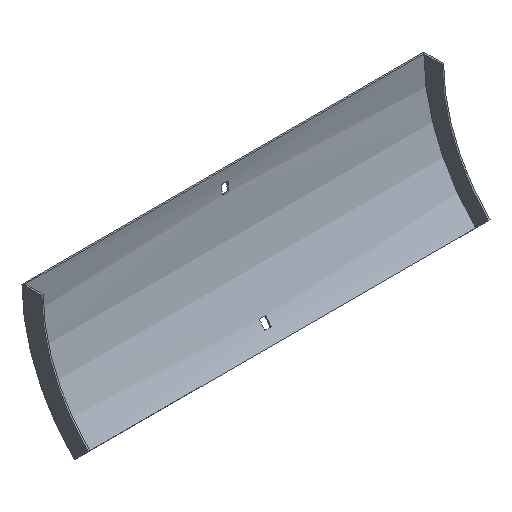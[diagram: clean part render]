
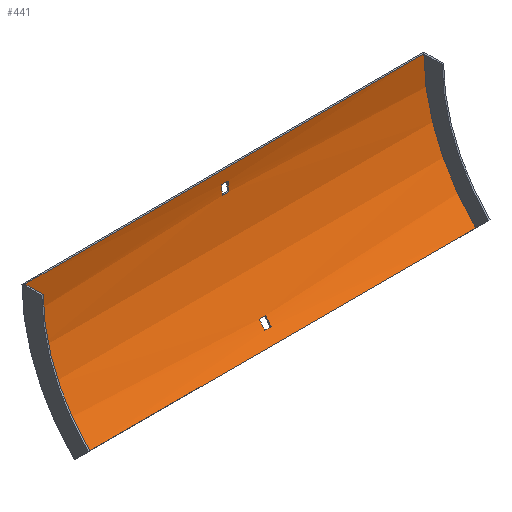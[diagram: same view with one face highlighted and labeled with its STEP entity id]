
A CAD part, isometric view. The second image highlights one B-rep face of the part: STEP entity #441.
In plain terms, the highlighted cylindrical face has radius 179 mm (diameter 358 mm), a partial arc.
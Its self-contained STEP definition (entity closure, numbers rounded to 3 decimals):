
#4 = CARTESIAN_POINT ( 'NONE',  ( 3.25, -45.727, -117.802 ) ) ;
#6 = FACE_OUTER_BOUND ( 'NONE', #267, .T. ) ;
#7 = VERTEX_POINT ( 'NONE', #592 ) ;
#10 = CIRCLE ( 'NONE', #90, 179. ) ;
#19 = DIRECTION ( 'NONE',  ( 0., 0., -1. ) ) ;
#34 = CARTESIAN_POINT ( 'NONE',  ( 3.25, -1.903, -12. ) ) ;
#39 = CARTESIAN_POINT ( 'NONE',  ( 3.25, -39.953, -110.849 ) ) ;
#40 = CARTESIAN_POINT ( 'NONE',  ( -3.25, -2.736, -21. ) ) ;
#42 = CIRCLE ( 'NONE', #138, 179. ) ;
#46 = VERTEX_POINT ( 'NONE', #315 ) ;
#50 = CARTESIAN_POINT ( 'NONE',  ( 3.25, -180.5, 0. ) ) ;
#52 = CIRCLE ( 'NONE', #427, 179. ) ;
#59 = DIRECTION ( 'NONE',  ( 0., 0., 1. ) ) ;
#72 = CARTESIAN_POINT ( 'NONE',  ( -3.25, -180.5, 0. ) ) ;
#75 = VERTEX_POINT ( 'NONE', #312 ) ;
#88 = VERTEX_POINT ( 'NONE', #39 ) ;
#90 = AXIS2_PLACEMENT_3D ( 'NONE', #460, #318, #599 ) ;
#94 = EDGE_CURVE ( 'NONE', #411, #128, #219, .T. ) ;
#103 = VERTEX_POINT ( 'NONE', #607 ) ;
#109 = LINE ( 'NONE', #321, #591 ) ;
#123 = VERTEX_POINT ( 'NONE', #34 ) ;
#128 = VERTEX_POINT ( 'NONE', #295 ) ;
#137 = EDGE_CURVE ( 'NONE', #354, #390, #42, .T. ) ;
#138 = AXIS2_PLACEMENT_3D ( 'NONE', #209, #397, #202 ) ;
#140 = DIRECTION ( 'NONE',  ( -1., 0., 0. ) ) ;
#141 = LINE ( 'NONE', #371, #322 ) ;
#142 = CIRCLE ( 'NONE', #162, 179. ) ;
#143 = DIRECTION ( 'NONE',  ( -1., 0., 0. ) ) ;
#149 = VECTOR ( 'NONE', #254, 1000. ) ;
#150 = LINE ( 'NONE', #333, #520 ) ;
#154 = EDGE_CURVE ( 'NONE', #128, #75, #537, .T. ) ;
#162 = AXIS2_PLACEMENT_3D ( 'NONE', #50, #233, #477 ) ;
#174 = CARTESIAN_POINT ( 'NONE',  ( 3.25, -2.736, -21. ) ) ;
#186 = FACE_BOUND ( 'NONE', #203, .T. ) ;
#191 = CARTESIAN_POINT ( 'NONE',  ( 203.5, -180.5, 0. ) ) ;
#197 = EDGE_CURVE ( 'NONE', #103, #300, #261, .T. ) ;
#202 = DIRECTION ( 'NONE',  ( 0., 0., 1. ) ) ;
#203 = EDGE_LOOP ( 'NONE', ( #393, #407, #249, #473 ) ) ;
#209 = CARTESIAN_POINT ( 'NONE',  ( 202., -180.5, 0. ) ) ;
#212 = VECTOR ( 'NONE', #140, 1000. ) ;
#213 = ORIENTED_EDGE ( 'NONE', *, *, #418, .F. ) ;
#219 = LINE ( 'NONE', #277, #212 ) ;
#231 = EDGE_CURVE ( 'NONE', #390, #7, #301, .T. ) ;
#233 = DIRECTION ( 'NONE',  ( 1., 0., 0. ) ) ;
#237 = FACE_BOUND ( 'NONE', #422, .T. ) ;
#249 = ORIENTED_EDGE ( 'NONE', *, *, #461, .T. ) ;
#250 = DIRECTION ( 'NONE',  ( 0., 0., 1. ) ) ;
#252 = DIRECTION ( 'NONE',  ( 1., 0., 0. ) ) ;
#254 = DIRECTION ( 'NONE',  ( -1., 0., 0. ) ) ;
#261 = CIRCLE ( 'NONE', #292, 179. ) ;
#267 = EDGE_LOOP ( 'NONE', ( #282, #519, #600, #303 ) ) ;
#268 = EDGE_CURVE ( 'NONE', #88, #411, #10, .T. ) ;
#271 = AXIS2_PLACEMENT_3D ( 'NONE', #72, #589, #19 ) ;
#277 = CARTESIAN_POINT ( 'NONE',  ( 203.5, -45.727, -117.802 ) ) ;
#278 = DIRECTION ( 'NONE',  ( -1., 0., 0. ) ) ;
#282 = ORIENTED_EDGE ( 'NONE', *, *, #471, .F. ) ;
#292 = AXIS2_PLACEMENT_3D ( 'NONE', #536, #298, #250 ) ;
#295 = CARTESIAN_POINT ( 'NONE',  ( -3.25, -45.727, -117.802 ) ) ;
#298 = DIRECTION ( 'NONE',  ( -1., 0., 0. ) ) ;
#300 = VERTEX_POINT ( 'NONE', #40 ) ;
#301 = LINE ( 'NONE', #494, #149 ) ;
#303 = ORIENTED_EDGE ( 'NONE', *, *, #231, .T. ) ;
#312 = CARTESIAN_POINT ( 'NONE',  ( -3.25, -39.953, -110.849 ) ) ;
#315 = CARTESIAN_POINT ( 'NONE',  ( -202., -53.928, -126.572 ) ) ;
#318 = DIRECTION ( 'NONE',  ( -1., 0., 0. ) ) ;
#321 = CARTESIAN_POINT ( 'NONE',  ( 202., -53.928, -126.572 ) ) ;
#322 = VECTOR ( 'NONE', #518, 1000. ) ;
#325 = ORIENTED_EDGE ( 'NONE', *, *, #379, .F. ) ;
#333 = CARTESIAN_POINT ( 'NONE',  ( 203.5, -39.953, -110.849 ) ) ;
#354 = VERTEX_POINT ( 'NONE', #450 ) ;
#371 = CARTESIAN_POINT ( 'NONE',  ( 203.5, -1.903, -12. ) ) ;
#379 = EDGE_CURVE ( 'NONE', #588, #123, #142, .T. ) ;
#390 = VERTEX_POINT ( 'NONE', #415 ) ;
#393 = ORIENTED_EDGE ( 'NONE', *, *, #94, .T. ) ;
#397 = DIRECTION ( 'NONE',  ( 1., 0., 0. ) ) ;
#407 = ORIENTED_EDGE ( 'NONE', *, *, #154, .T. ) ;
#411 = VERTEX_POINT ( 'NONE', #4 ) ;
#415 = CARTESIAN_POINT ( 'NONE',  ( 202., -1.5, 0. ) ) ;
#418 = EDGE_CURVE ( 'NONE', #123, #103, #141, .T. ) ;
#422 = EDGE_LOOP ( 'NONE', ( #435, #213, #325, #531 ) ) ;
#426 = VECTOR ( 'NONE', #527, 1000. ) ;
#427 = AXIS2_PLACEMENT_3D ( 'NONE', #534, #252, #59 ) ;
#435 = ORIENTED_EDGE ( 'NONE', *, *, #197, .F. ) ;
#441 = ADVANCED_FACE ( 'NONE', ( #237, #6, #186 ), #512, .F. ) ;
#450 = CARTESIAN_POINT ( 'NONE',  ( 202., -53.928, -126.572 ) ) ;
#460 = CARTESIAN_POINT ( 'NONE',  ( 3.25, -180.5, 0. ) ) ;
#461 = EDGE_CURVE ( 'NONE', #75, #88, #150, .T. ) ;
#468 = DIRECTION ( 'NONE',  ( 0., 0., 1. ) ) ;
#471 = EDGE_CURVE ( 'NONE', #46, #7, #52, .T. ) ;
#473 = ORIENTED_EDGE ( 'NONE', *, *, #268, .T. ) ;
#477 = DIRECTION ( 'NONE',  ( 0., 0., -1. ) ) ;
#480 = CARTESIAN_POINT ( 'NONE',  ( 203.5, -2.736, -21. ) ) ;
#483 = AXIS2_PLACEMENT_3D ( 'NONE', #191, #278, #468 ) ;
#494 = CARTESIAN_POINT ( 'NONE',  ( 202., -1.5, 0. ) ) ;
#512 = CYLINDRICAL_SURFACE ( 'NONE', #483, 179. ) ;
#518 = DIRECTION ( 'NONE',  ( -1., 0., 0. ) ) ;
#519 = ORIENTED_EDGE ( 'NONE', *, *, #601, .F. ) ;
#520 = VECTOR ( 'NONE', #530, 1000. ) ;
#527 = DIRECTION ( 'NONE',  ( 1., 0., 0. ) ) ;
#530 = DIRECTION ( 'NONE',  ( 1., 0., 0. ) ) ;
#531 = ORIENTED_EDGE ( 'NONE', *, *, #590, .F. ) ;
#534 = CARTESIAN_POINT ( 'NONE',  ( -202., -180.5, 0. ) ) ;
#536 = CARTESIAN_POINT ( 'NONE',  ( -3.25, -180.5, 0. ) ) ;
#537 = CIRCLE ( 'NONE', #271, 179. ) ;
#547 = LINE ( 'NONE', #480, #426 ) ;
#588 = VERTEX_POINT ( 'NONE', #174 ) ;
#589 = DIRECTION ( 'NONE',  ( 1., 0., 0. ) ) ;
#590 = EDGE_CURVE ( 'NONE', #300, #588, #547, .T. ) ;
#591 = VECTOR ( 'NONE', #143, 1000. ) ;
#592 = CARTESIAN_POINT ( 'NONE',  ( -202., -1.5, 0. ) ) ;
#599 = DIRECTION ( 'NONE',  ( 0., 0., 1. ) ) ;
#600 = ORIENTED_EDGE ( 'NONE', *, *, #137, .T. ) ;
#601 = EDGE_CURVE ( 'NONE', #354, #46, #109, .T. ) ;
#607 = CARTESIAN_POINT ( 'NONE',  ( -3.25, -1.903, -12. ) ) ;
